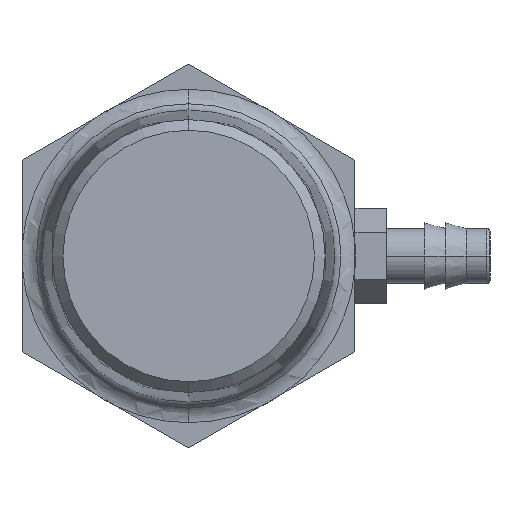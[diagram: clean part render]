
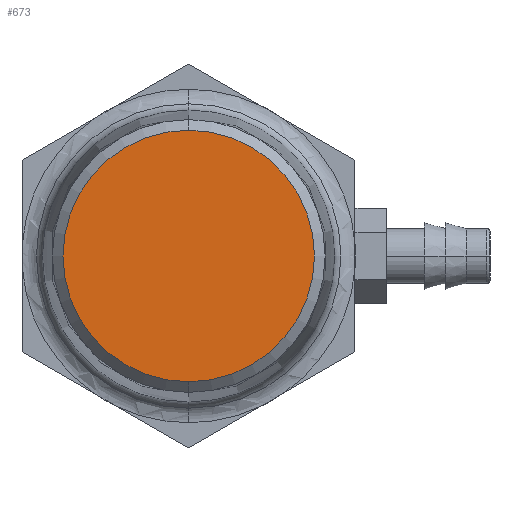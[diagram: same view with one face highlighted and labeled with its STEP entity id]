
A CAD part, left-side view. The second image highlights one B-rep face of the part: STEP entity #673.
In plain terms, the highlighted planar face has unit normal (-1, 0, 0).
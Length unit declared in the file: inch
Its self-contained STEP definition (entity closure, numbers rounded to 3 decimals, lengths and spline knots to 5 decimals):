
#272=CARTESIAN_POINT('',(-3.995,0.,0.));
#273=DIRECTION('',(-1.,0.,0.));
#274=DIRECTION('',(0.,0.,1.));
#275=AXIS2_PLACEMENT_3D('',#272,#273,#274);
#277=CARTESIAN_POINT('',(-3.995,0.,0.));
#278=DIRECTION('',(-1.,0.,0.));
#279=DIRECTION('',(0.,0.,-1.));
#280=AXIS2_PLACEMENT_3D('',#277,#278,#279);
#533=CARTESIAN_POINT('',(-3.995,0.,-0.37814));
#534=VERTEX_POINT('',#533);
#535=CARTESIAN_POINT('',(-3.995,0.,0.37814));
#536=VERTEX_POINT('',#535);
#663=CARTESIAN_POINT('',(-3.995,0.,0.18907));
#664=DIRECTION('',(-1.,0.,0.));
#665=DIRECTION('',(0.,0.,1.));
#666=AXIS2_PLACEMENT_3D('',#663,#664,#665);
#667=PLANE('',#666);
#668=ORIENTED_EDGE('',*,*,#653,.F.);
#670=ORIENTED_EDGE('',*,*,#669,.F.);
#671=EDGE_LOOP('',(#668,#670));
#672=FACE_OUTER_BOUND('',#671,.F.);
#276=CIRCLE('',#275,0.37814);
#281=CIRCLE('',#280,0.37814);
#653=EDGE_CURVE('',#536,#534,#276,.T.);
#669=EDGE_CURVE('',#534,#536,#281,.T.);
#673=ADVANCED_FACE('',(#672),#667,.T.);
